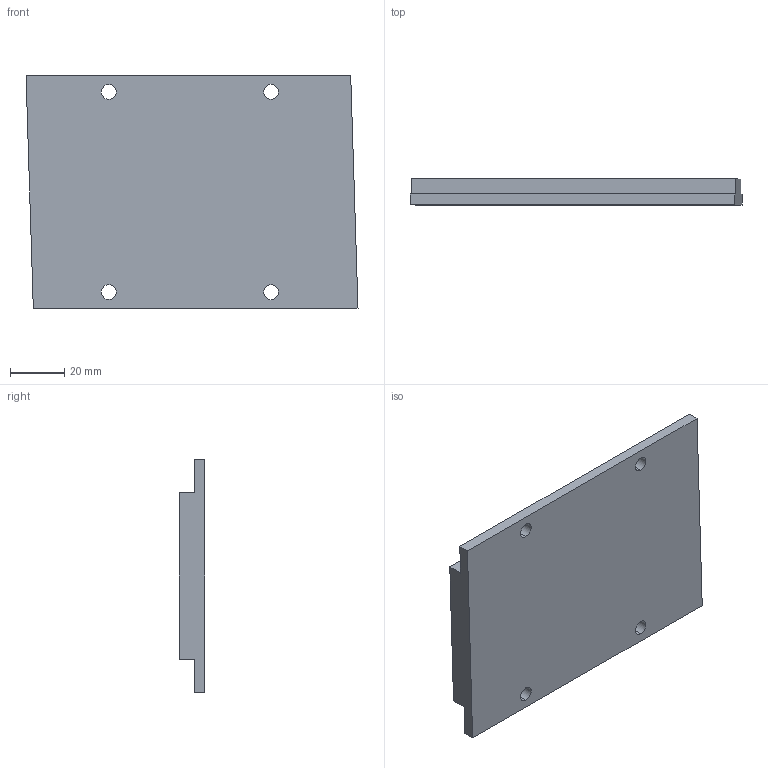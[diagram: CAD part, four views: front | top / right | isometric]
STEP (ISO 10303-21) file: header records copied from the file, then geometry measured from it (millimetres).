
FILE_DESCRIPTION (( 'STEP AP214' ), '1' );
FILE_NAME ('隅赽MK2-120.STEP', '2025-09-05T08:57:48', ( '' ), ( '' ), 'SwSTEP 2.0', 'SolidWorks 2016', '' );
FILE_SCHEMA (( 'AUTOMOTIVE_DESIGN' ));
Length unit declared in the file: millimetre
Products named in the file (1): 隅赽MK2-120
Bounding box: 122.7 x 9.6 x 86 mm (x, y, z)
Volume: 82288.8 mm3; surface area: 24423.4 mm2
Topology: 1 solids, 1 shells, 48 faces, 132 edges, 88 vertices
Faces by surface type: plane 28, bspline 12, cylinder 8
Entity records: 2242 total; most frequent: CARTESIAN_POINT 1033, ORIENTED_EDGE 264, DIRECTION 198, EDGE_CURVE 132, LINE 92, VECTOR 92, VERTEX_POINT 88, EDGE_LOOP 58
